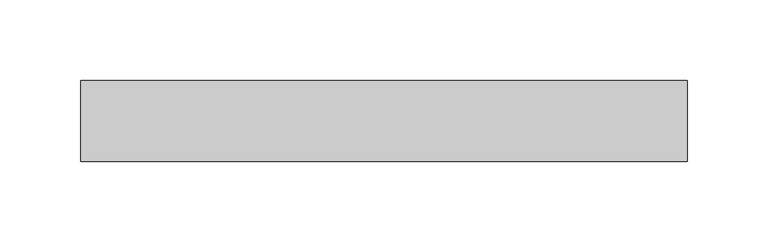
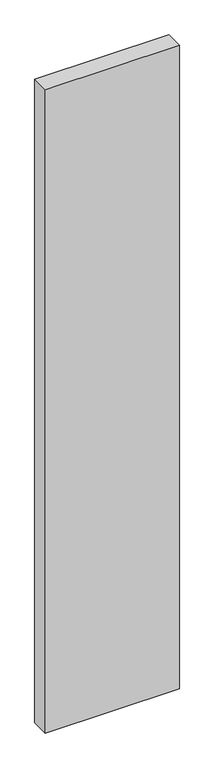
"""IFC4 building model written with IfcOpenShell, lengths in millimetres: plate geometry, Системная панель : Стекло(50мм)."""

from ifc_helpers import new_model, si_unit, origin, origin_with_axes, place, context, project, spatial, polyline, outline, extrude, source, transform, mapped, element, save


def plate_3708f6d8(model_context):
    return source(origin(), model_context, "Body", "SweptSolid", [
        extrude(outline(polyline([(187.5, -25.0), (-187.5, -25.0), (-187.5, 25.0), (187.5, 25.0), (187.5, -25.0)])), origin_with_axes(), (0.0, 0.0, 1.0), 1900.0),
    ])


if __name__ == "__main__":
    model = new_model("IFC4")
    model_context = context("Model", 3, world=origin())
    ifc_project = project(units=[si_unit("LENGTHUNIT", "METRE", prefix="MILLI")], contexts=[model_context])
    site = spatial("IfcSite", under=ifc_project)
    building = spatial("IfcBuilding", under=site)
    placement = place(None, origin())
    plate_shape = plate_3708f6d8(model_context)
    element("IfcPlate", 1, ObjectType="Системная панель : Стекло(50мм)", at=placement, inside=building, context=model_context, shape_type="MappedRepresentation", body=[
        mapped(plate_shape, transform((0.0, 0.0, 0.0), x_axis=(1.0, 0.0, 0.0), y_axis=(0.0, 1.0, 0.0), z_axis=(0.0, 0.0, 1.0))),
    ])
    save(model, "model.ifc")
